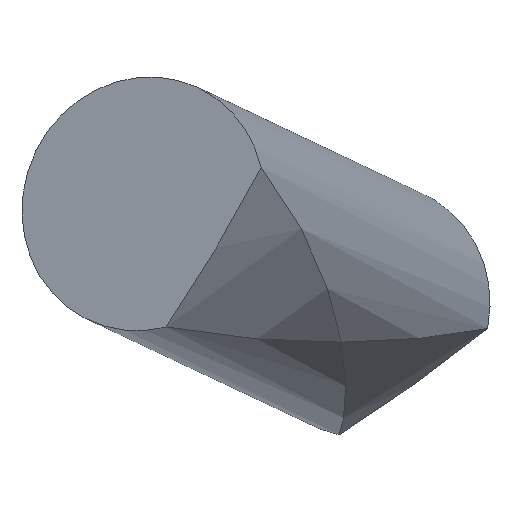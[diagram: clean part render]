
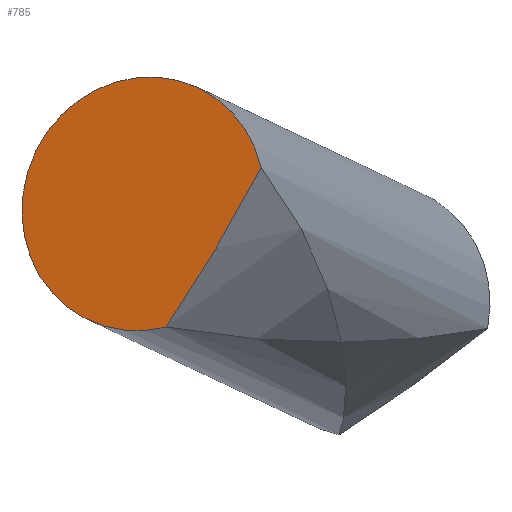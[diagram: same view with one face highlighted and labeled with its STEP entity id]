
A CAD part, isometric view. The second image highlights one B-rep face of the part: STEP entity #785.
In plain terms, the highlighted planar face has unit normal (-0.707, -0.242, 0.664).
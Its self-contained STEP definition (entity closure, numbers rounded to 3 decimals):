
#21 = EDGE_CURVE('',#22,#24,#26,.T.);
#22 = VERTEX_POINT('',#23);
#23 = CARTESIAN_POINT('',(86.054,35.228,
    43.309));
#24 = VERTEX_POINT('',#25);
#25 = CARTESIAN_POINT('',(90.548,35.017,
    48.015));
#26 = SURFACE_CURVE('',#27,(#32,#44),.PCURVE_S1.);
#27 = CIRCLE('',#28,4.5);
#28 = AXIS2_PLACEMENT_3D('',#29,#30,#31);
#29 = CARTESIAN_POINT('',(87.825,38.136,
    46.252));
#30 = DIRECTION('',(0.707,0.242,-0.664));
#31 = DIRECTION('',(-0.685,0.,-0.729));
#32 = PCURVE('',#33,#38);
#33 = CYLINDRICAL_SURFACE('',#34,4.5);
#34 = AXIS2_PLACEMENT_3D('',#35,#36,#37);
#35 = CARTESIAN_POINT('',(87.825,38.136,46.252
    ));
#36 = DIRECTION('',(0.707,0.242,-0.664));
#37 = DIRECTION('',(0.685,0.,0.729));
#38 = DEFINITIONAL_REPRESENTATION('',(#39),#43);
#39 = LINE('',#40,#41);
#40 = CARTESIAN_POINT('',(-3.142,0.));
#41 = VECTOR('',#42,1.);
#42 = DIRECTION('',(1.,0.));
#43 = ( GEOMETRIC_REPRESENTATION_CONTEXT(2) 
PARAMETRIC_REPRESENTATION_CONTEXT() REPRESENTATION_CONTEXT('2D SPACE',''
  ) );
#44 = PCURVE('',#45,#50);
#45 = PLANE('',#46);
#46 = AXIS2_PLACEMENT_3D('',#47,#48,#49);
#47 = CARTESIAN_POINT('',(87.825,38.136,46.252
    ));
#48 = DIRECTION('',(0.707,0.242,-0.664));
#49 = DIRECTION('',(0.685,0.,0.729));
#50 = DEFINITIONAL_REPRESENTATION('',(#51),#55);
#51 = CIRCLE('',#52,4.5);
#52 = AXIS2_PLACEMENT_2D('',#53,#54);
#53 = CARTESIAN_POINT('',(0.,0.));
#54 = DIRECTION('',(-1.,0.));
#55 = ( GEOMETRIC_REPRESENTATION_CONTEXT(2) 
PARAMETRIC_REPRESENTATION_CONTEXT() REPRESENTATION_CONTEXT('2D SPACE',''
  ) );
#97 = CYLINDRICAL_SURFACE('',#98,30.);
#98 = AXIS2_PLACEMENT_3D('',#99,#100,#101);
#99 = CARTESIAN_POINT('',(81.,65.,47.));
#100 = DIRECTION('',(1.,0.,0.));
#101 = DIRECTION('',(0.,0.,1.));
#785 = ADVANCED_FACE('',(#786),#45,.F.);
#786 = FACE_BOUND('',#787,.T.);
#787 = EDGE_LOOP('',(#788,#831));
#788 = ORIENTED_EDGE('',*,*,#789,.T.);
#789 = EDGE_CURVE('',#22,#24,#790,.T.);
#790 = SURFACE_CURVE('',#791,(#795,#802),.PCURVE_S1.);
#791 = ( BOUNDED_CURVE() B_SPLINE_CURVE(2,(#792,#793,#794),
.UNSPECIFIED.,.F.,.F.) B_SPLINE_CURVE_WITH_KNOTS((3,3),(68.061,
77.066),.PIECEWISE_BEZIER_KNOTS.) CURVE() 
GEOMETRIC_REPRESENTATION_ITEM() RATIONAL_B_SPLINE_CURVE((1.,
0.997,1.)) REPRESENTATION_ITEM('') );
#792 = CARTESIAN_POINT('',(86.054,35.228,
    43.309));
#793 = CARTESIAN_POINT('',(88.357,34.937,
    45.654));
#794 = CARTESIAN_POINT('',(90.548,35.017,
    48.015));
#795 = PCURVE('',#45,#796);
#796 = DEFINITIONAL_REPRESENTATION('',(#797),#801);
#797 = ( BOUNDED_CURVE() B_SPLINE_CURVE(2,(#798,#799,#800),
.UNSPECIFIED.,.F.,.F.) B_SPLINE_CURVE_WITH_KNOTS((3,3),(68.061,
77.066),.PIECEWISE_BEZIER_KNOTS.) CURVE() 
GEOMETRIC_REPRESENTATION_ITEM() RATIONAL_B_SPLINE_CURVE((1.,
0.997,1.)) REPRESENTATION_ITEM('') );
#798 = CARTESIAN_POINT('',(-3.357,2.997));
#799 = CARTESIAN_POINT('',(-0.072,3.296));
#800 = CARTESIAN_POINT('',(3.15,3.214));
#801 = ( GEOMETRIC_REPRESENTATION_CONTEXT(2) 
PARAMETRIC_REPRESENTATION_CONTEXT() REPRESENTATION_CONTEXT('2D SPACE',''
  ) );
#802 = PCURVE('',#97,#803);
#803 = DEFINITIONAL_REPRESENTATION('',(#804),#830);
#804 = B_SPLINE_CURVE_WITH_KNOTS('',3,(#805,#806,#807,#808,#809,#810,
    #811,#812,#813,#814,#815,#816,#817,#818,#819,#820,#821,#822,#823,
    #824,#825,#826,#827,#828,#829),.UNSPECIFIED.,.F.,.F.,(4,1,1,1,1,1,1,
    1,1,1,1,1,1,1,1,1,1,1,1,1,1,1,4),(68.061,68.47,
    68.88,69.289,69.698,70.108,
    70.517,70.926,71.336,71.745,
    72.154,72.564,72.973,73.382,
    73.792,74.201,74.61,75.02,
    75.429,75.838,76.248,76.657,
    77.066),.QUASI_UNIFORM_KNOTS.);
#805 = CARTESIAN_POINT('',(1.694,5.054));
#806 = CARTESIAN_POINT('',(1.692,5.124));
#807 = CARTESIAN_POINT('',(1.687,5.263));
#808 = CARTESIAN_POINT('',(1.68,5.471));
#809 = CARTESIAN_POINT('',(1.673,5.679));
#810 = CARTESIAN_POINT('',(1.666,5.886));
#811 = CARTESIAN_POINT('',(1.658,6.094));
#812 = CARTESIAN_POINT('',(1.651,6.301));
#813 = CARTESIAN_POINT('',(1.644,6.507));
#814 = CARTESIAN_POINT('',(1.637,6.713));
#815 = CARTESIAN_POINT('',(1.63,6.919));
#816 = CARTESIAN_POINT('',(1.623,7.124));
#817 = CARTESIAN_POINT('',(1.616,7.329));
#818 = CARTESIAN_POINT('',(1.608,7.533));
#819 = CARTESIAN_POINT('',(1.601,7.737));
#820 = CARTESIAN_POINT('',(1.594,7.941));
#821 = CARTESIAN_POINT('',(1.587,8.143));
#822 = CARTESIAN_POINT('',(1.58,8.346));
#823 = CARTESIAN_POINT('',(1.573,8.548));
#824 = CARTESIAN_POINT('',(1.566,8.749));
#825 = CARTESIAN_POINT('',(1.558,8.95));
#826 = CARTESIAN_POINT('',(1.551,9.15));
#827 = CARTESIAN_POINT('',(1.544,9.349));
#828 = CARTESIAN_POINT('',(1.539,9.482));
#829 = CARTESIAN_POINT('',(1.537,9.548));
#830 = ( GEOMETRIC_REPRESENTATION_CONTEXT(2) 
PARAMETRIC_REPRESENTATION_CONTEXT() REPRESENTATION_CONTEXT('2D SPACE',''
  ) );
#831 = ORIENTED_EDGE('',*,*,#21,.F.);
